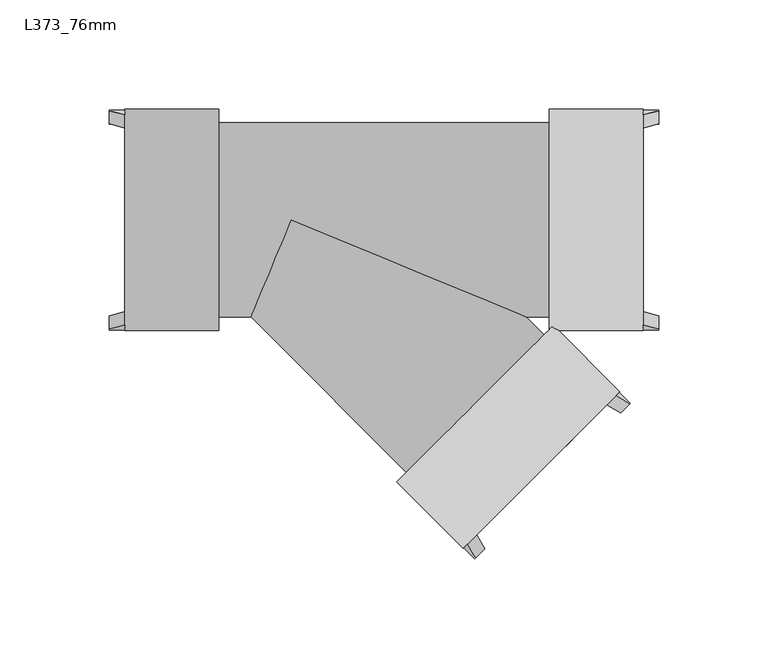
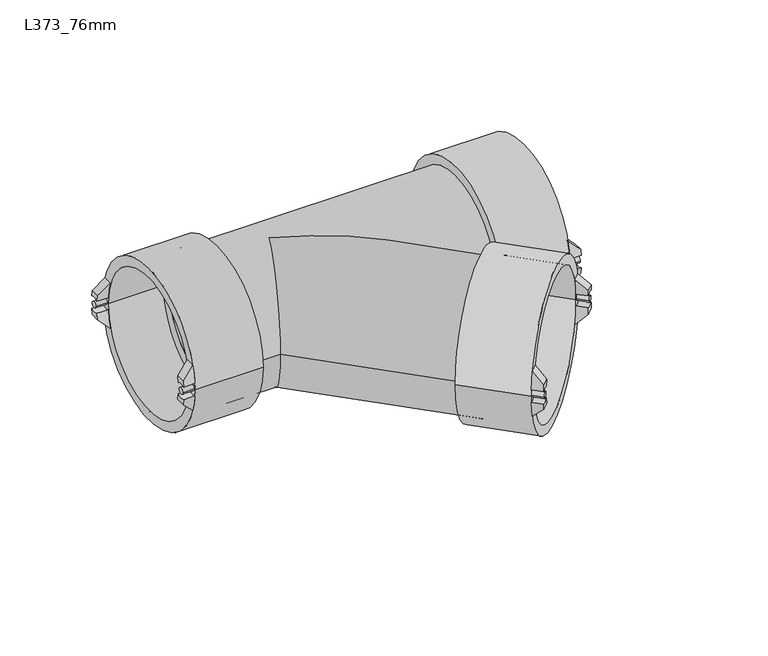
"""IFC4 building model written with IfcOpenShell, lengths in millimetres: pipe fitting geometry, Durapipe_PipeFitting_VulcatheneEnfusion_SingleWye_L37 : L373_76mm."""

from ifc_helpers import new_model, si_unit, point, frame, frame_2d, origin, place, context, project, spatial, polyline, circle_curve, ellipse_curve, trimmed, segment, composite_curve, outline, extrude, source, transform, mapped, element, save
from ifc_brep_helpers import plane_surface, cylinder_surface, revolved_surface, advanced_brep


def l373_76mm_3f97b690(model_context):
    return source(origin(), model_context, "Body", "SolidModel", [
        advanced_brep(
        [(150.9511575, -88.0509345, 5.9517116), (155.0877322, -83.9143599, 6.2013761), (154.7658046, -84.2362874, 9.9669854), (150.5701537, -88.4319384, 9.9669854), (148.5778752, -80.3833006, 17.0269854), (150.067274, -78.8939017, 6.2013761), (145.9306994, -83.0304764, 5.9517116), (144.2179591, -84.7432166, 17.0269854)],
        [
            (0, 1, circle_curve(frame((153.1416511, -85.8604409, 2.0269854), z_axis=(-0.7071067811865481, 0.7071067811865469, 0.0), x_axis=(-0.7071067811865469, -0.7071067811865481, 0.0)), 5.0)),
            (1, 2, circle_curve(frame((119.501046, -119.501046, 2.0269854), z_axis=(0.7071067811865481, -0.7071067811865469, 0.0), x_axis=(-0.7071067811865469, -0.7071067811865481, 0.0)), 50.5)),
            (2, 3),
            (3, 0, circle_curve(frame((119.501046, -119.501046, 2.0269854), z_axis=(-0.7071067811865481, 0.7071067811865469, 0.0), x_axis=(-0.7071067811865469, -0.7071067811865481, 0.0)), 44.65)),
            (4, 5, circle_curve(frame((114.4805879, -114.4805879, 2.0269854), z_axis=(-0.7071067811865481, 0.7071067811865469, 0.0), x_axis=(-0.7071067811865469, -0.7071067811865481, 0.0)), 50.5)),
            (5, 6, circle_curve(frame((148.121193, -80.8399828, 2.0269854), z_axis=(0.7071067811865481, -0.7071067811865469, 0.0), x_axis=(-0.7071067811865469, -0.7071067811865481, 0.0)), 5.0)),
            (6, 7, circle_curve(frame((114.4805879, -114.4805879, 2.0269854), z_axis=(0.7071067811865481, -0.7071067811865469, 0.0), x_axis=(-0.7071067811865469, -0.7071067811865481, 0.0)), 44.65)),
            (7, 4),
            (6, 0),
            (3, 7, ellipse_curve(frame((125.1472837, -125.1472837, 2.0269854), z_axis=(0.4985855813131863, -0.4985855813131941, 0.7091014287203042), x_axis=(-0.5014104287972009, 0.5014104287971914, 0.7051064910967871)), 63.3237682, 44.65)),
            (4, 2, ellipse_curve(frame((125.1472837, -125.1472837, 2.0269854), z_axis=(-0.4985855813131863, 0.4985855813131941, -0.7091014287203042), x_axis=(0.5014104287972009, -0.5014104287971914, -0.7051064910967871)), 71.6203873, 50.5)),
            (1, 5),
        ],
        [
            plane_surface(frame((153.5983333, -85.4037587, 17.0269854), z_axis=(0.7071067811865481, -0.7071067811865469, 0.0), x_axis=(-0.7071067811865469, -0.7071067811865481, 0.0))),
            plane_surface(frame((148.5778752, -80.3833006, 17.0269854), z_axis=(-0.7071067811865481, 0.7071067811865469, 0.0), x_axis=(0.7071067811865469, 0.7071067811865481, 0.0))),
            revolved_surface(polyline([(61.82376815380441, -124.96840371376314, 2.0269854), (125.32616368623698, -188.4707992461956, 2.0269854)]), (114.4805879, -114.4805879, 2.0269854), (-0.7071067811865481, 0.7071067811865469, 0.0)),
            cylinder_surface(frame((114.4805879, -114.4805879, 2.0269854), z_axis=(0.7071067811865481, -0.7071067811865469, 0.0), x_axis=(-0.7071067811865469, -0.7071067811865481, 0.0)), 50.5),
            revolved_surface(polyline([(149.60611724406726, -89.39597485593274, 2.0269854), (144.58565904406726, -84.37551665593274, 2.0269854)]), (148.121193, -80.8399828, 2.0269854), (0.7071067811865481, -0.7071067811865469, 0.0)),
            plane_surface(frame((78.7716954, -150.1894803, 17.0269854), z_axis=(0.4985855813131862, -0.49858558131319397, 0.7091014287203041), x_axis=(0.7071067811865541, 0.7071067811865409, 0.0))),
        ],
        [
            (0, [[1, 2, 3, 4]]),
            (1, [[5, 6, 7, 8]]),
            (2, [[-7, 9, -4, 10]]),
            (3, [[-5, 11, -2, 12]]),
            (4, [[-1, -9, -6, -12]]),
            (5, [[-3, -11, -8, -10]]),
        ],
    ),
        advanced_brep(
        [(155.0877322, -83.9143599, -2.1474052), (150.9511575, -88.0509345, -1.8977407), (150.5701537, -88.4319384, -5.9130146), (154.7658046, -84.2362874, -5.9130146), (150.067274, -78.8939017, -2.1474052), (148.5778752, -80.3833006, -12.9730146), (144.2179591, -84.7432166, -12.9730146), (145.9306994, -83.0304764, -1.8977407)],
        [
            (0, 1, circle_curve(frame((153.1416511, -85.8604409, 2.0269854), z_axis=(-0.7071067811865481, 0.7071067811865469, 0.0), x_axis=(-0.7071067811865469, -0.7071067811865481, 0.0)), 5.0)),
            (1, 2, circle_curve(frame((119.501046, -119.501046, 2.0269854), z_axis=(-0.7071067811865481, 0.7071067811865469, 0.0), x_axis=(-0.7071067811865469, -0.7071067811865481, 0.0)), 44.65)),
            (2, 3),
            (3, 0, circle_curve(frame((119.501046, -119.501046, 2.0269854), z_axis=(0.7071067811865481, -0.7071067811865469, 0.0), x_axis=(-0.7071067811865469, -0.7071067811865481, 0.0)), 50.5)),
            (4, 5, circle_curve(frame((114.4805879, -114.4805879, 2.0269854), z_axis=(-0.7071067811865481, 0.7071067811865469, 0.0), x_axis=(-0.7071067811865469, -0.7071067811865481, 0.0)), 50.5)),
            (5, 6),
            (6, 7, circle_curve(frame((114.4805879, -114.4805879, 2.0269854), z_axis=(0.7071067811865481, -0.7071067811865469, 0.0), x_axis=(-0.7071067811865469, -0.7071067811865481, 0.0)), 44.65)),
            (7, 4, circle_curve(frame((148.121193, -80.8399828, 2.0269854), z_axis=(0.7071067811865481, -0.7071067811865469, 0.0), x_axis=(-0.7071067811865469, -0.7071067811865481, 0.0)), 5.0)),
            (6, 2, ellipse_curve(frame((125.1472837, -125.1472837, 2.0269854), z_axis=(0.49858558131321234, -0.4985855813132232, -0.7091014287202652), x_axis=(-0.5014104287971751, 0.5014104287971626, -0.7051064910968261)), 63.3237682, 44.65)),
            (1, 7),
            (4, 0),
            (3, 5, ellipse_curve(frame((125.1472837, -125.1472837, 2.0269854), z_axis=(-0.49858558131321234, 0.4985855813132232, 0.7091014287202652), x_axis=(0.5014104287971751, -0.5014104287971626, 0.7051064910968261)), 71.6203873, 50.5)),
        ],
        [
            plane_surface(frame((153.5983333, -85.4037587, 17.0269854), z_axis=(0.7071067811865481, -0.7071067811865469, 0.0), x_axis=(-0.7071067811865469, -0.7071067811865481, 0.0))),
            plane_surface(frame((148.5778752, -80.3833006, 17.0269854), z_axis=(-0.7071067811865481, 0.7071067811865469, 0.0), x_axis=(0.7071067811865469, 0.7071067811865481, 0.0))),
            revolved_surface(polyline([(61.82376815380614, -124.96840371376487, 2.0269854), (125.32616368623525, -188.47079924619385, 2.0269854)]), (114.4805879, -114.4805879, 2.0269854), (-0.7071067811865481, 0.7071067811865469, 0.0)),
            cylinder_surface(frame((114.4805879, -114.4805879, 2.0269854), z_axis=(0.7071067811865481, -0.7071067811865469, 0.0), x_axis=(-0.7071067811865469, -0.7071067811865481, 0.0)), 50.5),
            revolved_surface(polyline([(149.60611724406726, -89.39597485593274, 2.0269854), (144.58565904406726, -84.37551665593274, 2.0269854)]), (148.121193, -80.8399828, 2.0269854), (0.7071067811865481, -0.7071067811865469, 0.0)),
            plane_surface(frame((83.7921536, -155.2099385, -5.9130146), z_axis=(0.49858558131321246, -0.49858558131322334, -0.7091014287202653), x_axis=(0.7071067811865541, 0.7071067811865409, 0.0))),
        ],
        [
            (0, [[1, 2, 3, 4]]),
            (1, [[5, 6, 7, 8]]),
            (2, [[-7, 9, -2, 10]]),
            (3, [[-5, 11, -4, 12]]),
            (4, [[-1, -11, -8, -10]]),
            (5, [[-3, -9, -6, -12]]),
        ],
    ),
        advanced_brep(
        [(83.9143599, -155.0877322, 6.2013761), (88.0509345, -150.9511575, 5.9517116), (88.4319384, -150.5701537, 9.9669854), (84.2362874, -154.7658046, 9.9669854), (78.8939017, -150.067274, 6.2013761), (80.3833006, -148.5778752, 17.0269854), (84.7432166, -144.2179591, 17.0269854), (83.0304764, -145.9306994, 5.9517116)],
        [
            (0, 1, circle_curve(frame((85.8604409, -153.1416511, 2.0269854), z_axis=(-0.7071067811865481, 0.7071067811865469, 0.0), x_axis=(-0.7071067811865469, -0.7071067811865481, 0.0)), 5.0)),
            (1, 2, circle_curve(frame((119.501046, -119.501046, 2.0269854), z_axis=(-0.7071067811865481, 0.7071067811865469, 0.0), x_axis=(-0.7071067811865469, -0.7071067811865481, 0.0)), 44.65)),
            (2, 3),
            (3, 0, circle_curve(frame((119.501046, -119.501046, 2.0269854), z_axis=(0.7071067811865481, -0.7071067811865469, 0.0), x_axis=(-0.7071067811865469, -0.7071067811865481, 0.0)), 50.5)),
            (4, 5, circle_curve(frame((114.4805879, -114.4805879, 2.0269854), z_axis=(-0.7071067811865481, 0.7071067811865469, 0.0), x_axis=(-0.7071067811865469, -0.7071067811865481, 0.0)), 50.5)),
            (5, 6),
            (6, 7, circle_curve(frame((114.4805879, -114.4805879, 2.0269854), z_axis=(0.7071067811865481, -0.7071067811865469, 0.0), x_axis=(-0.7071067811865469, -0.7071067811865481, 0.0)), 44.65)),
            (7, 4, circle_curve(frame((80.8399828, -148.121193, 2.0269854), z_axis=(0.7071067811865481, -0.7071067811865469, 0.0), x_axis=(-0.7071067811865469, -0.7071067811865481, 0.0)), 5.0)),
            (6, 2, ellipse_curve(frame((125.1472837, -125.1472837, 2.0269854), z_axis=(0.4985855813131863, -0.4985855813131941, 0.7091014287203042), x_axis=(-0.5014104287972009, 0.5014104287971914, 0.7051064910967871)), 63.3237682, 44.65)),
            (1, 7),
            (4, 0),
            (3, 5, ellipse_curve(frame((125.1472837, -125.1472837, 2.0269854), z_axis=(-0.4985855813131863, 0.4985855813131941, -0.7091014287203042), x_axis=(0.5014104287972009, -0.5014104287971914, -0.7051064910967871)), 71.6203873, 50.5)),
        ],
        [
            plane_surface(frame((153.5983333, -85.4037587, 17.0269854), z_axis=(0.7071067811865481, -0.7071067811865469, 0.0), x_axis=(-0.7071067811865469, -0.7071067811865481, 0.0))),
            plane_surface(frame((148.5778752, -80.3833006, 17.0269854), z_axis=(-0.7071067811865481, 0.7071067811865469, 0.0), x_axis=(0.7071067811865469, 0.7071067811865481, 0.0))),
            revolved_surface(polyline([(61.82376815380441, -124.96840371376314, 2.0269854), (125.32616368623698, -188.4707992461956, 2.0269854)]), (114.4805879, -114.4805879, 2.0269854), (-0.7071067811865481, 0.7071067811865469, 0.0)),
            cylinder_surface(frame((114.4805879, -114.4805879, 2.0269854), z_axis=(0.7071067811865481, -0.7071067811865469, 0.0), x_axis=(-0.7071067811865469, -0.7071067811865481, 0.0)), 50.5),
            revolved_surface(polyline([(82.32490704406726, -156.67718505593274, 2.0269854), (77.30444884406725, -151.65672685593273, 2.0269854)]), (80.8399828, -148.121193, 2.0269854), (0.7071067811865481, -0.7071067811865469, 0.0)),
            plane_surface(frame((78.7716954, -150.1894803, 17.0269854), z_axis=(0.4985855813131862, -0.49858558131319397, 0.7091014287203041), x_axis=(0.7071067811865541, 0.7071067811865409, 0.0))),
        ],
        [
            (0, [[1, 2, 3, 4]]),
            (1, [[5, 6, 7, 8]]),
            (2, [[-7, 9, -2, 10]]),
            (3, [[-5, 11, -4, 12]]),
            (4, [[-1, -11, -8, -10]]),
            (5, [[-3, -9, -6, -12]]),
        ],
    ),
        advanced_brep(
        [(88.0509345, -150.9511575, -1.8977407), (83.9143599, -155.0877322, -2.1474052), (84.2362874, -154.7658046, -5.9130146), (88.4319384, -150.5701537, -5.9130146), (80.3833006, -148.5778752, -12.9730146), (78.8939017, -150.067274, -2.1474052), (83.0304764, -145.9306994, -1.8977407), (84.7432166, -144.2179591, -12.9730146)],
        [
            (0, 1, circle_curve(frame((85.8604409, -153.1416511, 2.0269854), z_axis=(-0.7071067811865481, 0.7071067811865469, 0.0), x_axis=(-0.7071067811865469, -0.7071067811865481, 0.0)), 5.0)),
            (1, 2, circle_curve(frame((119.501046, -119.501046, 2.0269854), z_axis=(0.7071067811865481, -0.7071067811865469, 0.0), x_axis=(-0.7071067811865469, -0.7071067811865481, 0.0)), 50.5)),
            (2, 3),
            (3, 0, circle_curve(frame((119.501046, -119.501046, 2.0269854), z_axis=(-0.7071067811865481, 0.7071067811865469, 0.0), x_axis=(-0.7071067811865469, -0.7071067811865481, 0.0)), 44.65)),
            (4, 5, circle_curve(frame((114.4805879, -114.4805879, 2.0269854), z_axis=(-0.7071067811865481, 0.7071067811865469, 0.0), x_axis=(-0.7071067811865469, -0.7071067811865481, 0.0)), 50.5)),
            (5, 6, circle_curve(frame((80.8399828, -148.121193, 2.0269854), z_axis=(0.7071067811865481, -0.7071067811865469, 0.0), x_axis=(-0.7071067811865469, -0.7071067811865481, 0.0)), 5.0)),
            (6, 7, circle_curve(frame((114.4805879, -114.4805879, 2.0269854), z_axis=(0.7071067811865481, -0.7071067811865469, 0.0), x_axis=(-0.7071067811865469, -0.7071067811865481, 0.0)), 44.65)),
            (7, 4),
            (6, 0),
            (3, 7, ellipse_curve(frame((125.1472837, -125.1472837, 2.0269854), z_axis=(0.49858558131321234, -0.4985855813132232, -0.7091014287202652), x_axis=(-0.5014104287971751, 0.5014104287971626, -0.7051064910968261)), 63.3237682, 44.65)),
            (4, 2, ellipse_curve(frame((125.1472837, -125.1472837, 2.0269854), z_axis=(-0.49858558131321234, 0.4985855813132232, 0.7091014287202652), x_axis=(0.5014104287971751, -0.5014104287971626, 0.7051064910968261)), 71.6203873, 50.5)),
            (1, 5),
        ],
        [
            plane_surface(frame((153.5983333, -85.4037587, 17.0269854), z_axis=(0.7071067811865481, -0.7071067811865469, 0.0), x_axis=(-0.7071067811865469, -0.7071067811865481, 0.0))),
            plane_surface(frame((148.5778752, -80.3833006, 17.0269854), z_axis=(-0.7071067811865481, 0.7071067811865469, 0.0), x_axis=(0.7071067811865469, 0.7071067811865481, 0.0))),
            revolved_surface(polyline([(61.82376815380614, -124.96840371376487, 2.0269854), (125.32616368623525, -188.47079924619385, 2.0269854)]), (114.4805879, -114.4805879, 2.0269854), (-0.7071067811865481, 0.7071067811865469, 0.0)),
            cylinder_surface(frame((114.4805879, -114.4805879, 2.0269854), z_axis=(0.7071067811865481, -0.7071067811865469, 0.0), x_axis=(-0.7071067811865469, -0.7071067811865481, 0.0)), 50.5),
            revolved_surface(polyline([(82.32490704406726, -156.67718505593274, 2.0269854), (77.30444884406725, -151.65672685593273, 2.0269854)]), (80.8399828, -148.121193, 2.0269854), (0.7071067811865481, -0.7071067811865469, 0.0)),
            plane_surface(frame((83.7921536, -155.2099385, -5.9130146), z_axis=(0.49858558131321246, -0.49858558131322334, -0.7091014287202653), x_axis=(0.7071067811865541, 0.7071067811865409, 0.0))),
        ],
        [
            (0, [[1, 2, 3, 4]]),
            (1, [[5, 6, 7, 8]]),
            (2, [[-7, 9, -4, 10]]),
            (3, [[-5, 11, -2, 12]]),
            (4, [[-1, -9, -6, -12]]),
            (5, [[-3, -11, -8, -10]]),
        ],
    ),
        extrude(outline(composite_curve([segment(trimmed(circle_curve(frame_2d((0.0, -2.0)), 2.0), [point((0.0, -4.0))], [point((0.0, 0.0))], False, "CARTESIAN"), True, "CONTINUOUS"), segment(trimmed(circle_curve(frame_2d((0.0, -2.0)), 2.0), [point((0.0, 0.0))], [point((0.0, -4.0))], False, "CARTESIAN"), True, "CONTINUOUS")], self_intersect=False)), frame((151.7274376, -87.2746545, 2.0269854), z_axis=(-0.7071067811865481, 0.7071067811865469, 0.0), x_axis=(0.0, 0.0, -1.0)), (0.0, 0.0, 1.0), 7.1),
        extrude(outline(composite_curve([segment(trimmed(circle_curve(frame_2d((0.0, 93.15)), 2.0), [point((0.0, 91.15))], [point((0.0, 95.15))], False, "CARTESIAN"), True, "CONTINUOUS"), segment(trimmed(circle_curve(frame_2d((0.0, 93.15)), 2.0), [point((0.0, 95.15))], [point((0.0, 91.15))], False, "CARTESIAN"), True, "CONTINUOUS")], self_intersect=False)), frame((151.7274376, -87.2746545, 2.0269854), z_axis=(-0.7071067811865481, 0.7071067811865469, 0.0), x_axis=(0.0, 0.0, -1.0)), (0.0, 0.0, 1.0), 7.1),
        advanced_brep(
        [(116.6019082, -62.8617928, 2.0269854), (62.8617928, -116.6019082, 2.0269854), (58.2655988, -121.1981023, 2.0269854), (121.1981023, -58.2655988, 2.0269854), (110.945054, -57.2049386, 2.0269854), (57.2049386, -110.945054, 2.0269854), (119.8899548, -48.2600378, 2.0269854), (48.2600378, -119.8899548, 2.0269854), (150.2955463, -78.6656294, 2.0269854), (78.6656294, -150.2955463, 2.0269854), (145.9468396, -83.0143361, 2.0269854), (83.0143361, -145.9468396, 2.0269854)],
        [
            (0, 1, circle_curve(frame((89.7318505, -89.7318505, 2.0269854), z_axis=(-0.7071067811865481, 0.7071067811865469, 0.0), x_axis=(-0.7071067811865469, -0.7071067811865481, 0.0)), 38.0)),
            (1, 2),
            (2, 3, circle_curve(frame((89.7318505, -89.7318505, 2.0269854), z_axis=(0.7071067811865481, -0.7071067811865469, 0.0), x_axis=(-0.7071067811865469, -0.7071067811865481, 0.0)), 44.5)),
            (3, 0),
            (1, 0, circle_curve(frame((89.7318505, -89.7318505, 2.0269854), z_axis=(-0.7071067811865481, 0.7071067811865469, 0.0), x_axis=(-0.7071067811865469, -0.7071067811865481, 0.0)), 38.0)),
            (3, 2, circle_curve(frame((89.7318505, -89.7318505, 2.0269854), z_axis=(0.7071067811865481, -0.7071067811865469, 0.0), x_axis=(-0.7071067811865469, -0.7071067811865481, 0.0)), 44.5)),
            (4, 5, circle_curve(frame((84.0749963, -84.0749963, 2.0269854), z_axis=(-0.7071067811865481, 0.7071067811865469, 0.0), x_axis=(-0.7071067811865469, -0.7071067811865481, 0.0)), 38.0)),
            (5, 1),
            (0, 4),
            (5, 4, circle_curve(frame((84.0749963, -84.0749963, 2.0269854), z_axis=(-0.7071067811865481, 0.7071067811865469, 0.0), x_axis=(-0.7071067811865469, -0.7071067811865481, 0.0)), 38.0)),
            (6, 7, circle_curve(frame((84.0749963, -84.0749963, 2.0269854), z_axis=(-0.7071067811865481, 0.7071067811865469, 0.0), x_axis=(-0.7071067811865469, -0.7071067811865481, 0.0)), 50.65)),
            (7, 5),
            (4, 6),
            (7, 6, circle_curve(frame((84.0749963, -84.0749963, 2.0269854), z_axis=(-0.7071067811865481, 0.7071067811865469, 0.0), x_axis=(-0.7071067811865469, -0.7071067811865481, 0.0)), 50.65)),
            (8, 9, circle_curve(frame((114.4805879, -114.4805879, 2.0269854), z_axis=(-0.7071067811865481, 0.7071067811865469, 0.0), x_axis=(-0.7071067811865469, -0.7071067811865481, 0.0)), 50.65)),
            (9, 7),
            (6, 8),
            (9, 8, circle_curve(frame((114.4805879, -114.4805879, 2.0269854), z_axis=(-0.7071067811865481, 0.7071067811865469, 0.0), x_axis=(-0.7071067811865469, -0.7071067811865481, 0.0)), 50.65)),
            (10, 11, circle_curve(frame((114.4805879, -114.4805879, 2.0269854), z_axis=(-0.7071067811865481, 0.7071067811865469, 0.0), x_axis=(-0.7071067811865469, -0.7071067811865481, 0.0)), 44.5)),
            (11, 9),
            (8, 10),
            (11, 10, circle_curve(frame((114.4805879, -114.4805879, 2.0269854), z_axis=(-0.7071067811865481, 0.7071067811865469, 0.0), x_axis=(-0.7071067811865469, -0.7071067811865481, 0.0)), 44.5)),
            (2, 11),
            (10, 3),
        ],
        [
            plane_surface(frame((89.7318505, -89.7318505, 2.0269854), z_axis=(0.7071067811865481, -0.7071067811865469, 0.0), x_axis=(-0.7071067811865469, -0.7071067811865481, 0.0))),
            revolved_surface(polyline([(62.861792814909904, -116.60190818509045, 2.0269854), (57.204938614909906, -110.94505398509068, 2.0269854)]), (1892.1347491, -1892.1347491, 2.0269854), (0.7071067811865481, -0.7071067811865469, 0.0)),
            plane_surface(frame((84.0749963, -84.0749963, 2.0269854), z_axis=(-0.7071067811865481, 0.7071067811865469, 0.0), x_axis=(-0.7071067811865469, -0.7071067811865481, 0.0))),
            cylinder_surface(frame((1892.1347491, -1892.1347491, 2.0269854), z_axis=(0.7071067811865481, -0.7071067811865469, 0.0), x_axis=(-0.7071067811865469, -0.7071067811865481, 0.0)), 50.65),
            plane_surface(frame((114.4805879, -114.4805879, 2.0269854), z_axis=(0.7071067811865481, -0.7071067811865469, 0.0), x_axis=(-0.7071067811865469, -0.7071067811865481, 0.0))),
            revolved_surface(polyline([(83.01433613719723, -145.9468396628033, 2.0269854), (58.26559873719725, -121.1981022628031, 2.0269854)]), (1892.1347491, -1892.1347491, 2.0269854), (0.7071067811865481, -0.7071067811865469, 0.0)),
        ],
        [
            (0, [[1, 2, 3, 4]]),
            (0, [[5, -4, 6, -2]]),
            (1, [[7, 8, -1, 9]]),
            (1, [[10, -9, -5, -8]]),
            (2, [[11, 12, -7, 13]]),
            (2, [[14, -13, -10, -12]]),
            (3, [[15, 16, -11, 17]]),
            (3, [[18, -17, -14, -16]]),
            (4, [[19, 20, -15, 21]]),
            (4, [[22, -21, -18, -20]]),
            (5, [[-3, 23, -19, 24]]),
            (5, [[-6, -24, -22, -23]]),
        ],
    ),
        advanced_brep(
        [(-83.3, -44.4771742, 3.9247261), (-83.3, -50.3271742, 4.1743906), (-83.3, -49.8718999, 7.94), (-83.3, -43.9383534, 7.94), (-76.2, -48.2208461, 15.0), (-76.2, -50.3271742, 4.1743906), (-76.2, -44.4771742, 3.9247261), (-76.2, -42.0549938, 15.0)],
        [
            (0, 1, circle_curve(frame((-83.3, -47.575, 0.0), z_axis=(1.0, 0.0, 0.0), x_axis=(0.0, 1.0, 0.0)), 5.0)),
            (1, 2, circle_curve(frame((-83.3, 0.0, 0.0), z_axis=(-1.0, 0.0, 0.0), x_axis=(0.0, 1.0, 0.0)), 50.5)),
            (2, 3),
            (3, 0, circle_curve(frame((-83.3, 0.0, 0.0), z_axis=(1.0, 0.0, 0.0), x_axis=(0.0, 1.0, 0.0)), 44.65)),
            (4, 5, circle_curve(frame((-76.2, 0.0, 0.0), z_axis=(1.0, 0.0, 0.0), x_axis=(0.0, 1.0, 0.0)), 50.5)),
            (5, 6, circle_curve(frame((-76.2, -47.575, 0.0), z_axis=(-1.0, 0.0, 0.0), x_axis=(0.0, 1.0, 0.0)), 5.0)),
            (6, 7, circle_curve(frame((-76.2, 0.0, 0.0), z_axis=(-1.0, 0.0, 0.0), x_axis=(0.0, 1.0, 0.0)), 44.65)),
            (7, 4),
            (6, 0),
            (3, 7, ellipse_curve(frame((-91.2849858, 0.0, 0.0), z_axis=(-0.705106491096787, 0.0, 0.7091014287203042), x_axis=(0.7091014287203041, 0.0, 0.705106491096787)), 63.3237682, 44.65)),
            (4, 2, ellipse_curve(frame((-91.2849858, 0.0, 0.0), z_axis=(0.705106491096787, 0.0, -0.7091014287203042), x_axis=(-0.7091014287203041, 0.0, -0.705106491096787)), 71.6203873, 50.5)),
            (1, 5),
        ],
        [
            plane_surface(frame((-83.3, -48.2208461, 15.0), z_axis=(-1.0, 0.0, 0.0), x_axis=(0.0, 1.0, 0.0))),
            plane_surface(frame((-76.2, -48.2208461, 15.0), z_axis=(1.0, 0.0, 0.0), x_axis=(0.0, -1.0, 0.0))),
            revolved_surface(polyline([(-46.38201129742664, 44.65, 0.0), (-136.18796030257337, 44.65, 0.0)]), (-76.2, 0.0, 0.0), (1.0, 0.0, 0.0)),
            cylinder_surface(frame((-76.2, 0.0, 0.0), z_axis=(-1.0, 0.0, 0.0), x_axis=(0.0, 1.0, 0.0)), 50.5),
            revolved_surface(polyline([(-83.3, -42.575, 0.0), (-76.2, -42.575, 0.0)]), (-76.2, -47.575, 0.0), (-1.0, 0.0, 0.0)),
            plane_surface(frame((-76.2, 50.5, 15.0), z_axis=(-0.705106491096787, 0.0, 0.7091014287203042), x_axis=(0.0, -1.0, 0.0))),
        ],
        [
            (0, [[1, 2, 3, 4]]),
            (1, [[5, 6, 7, 8]]),
            (2, [[-7, 9, -4, 10]]),
            (3, [[-5, 11, -2, 12]]),
            (4, [[-1, -9, -6, -12]]),
            (5, [[-3, -11, -8, -10]]),
        ],
    ),
        advanced_brep(
        [(-83.3, -50.3271742, -4.1743906), (-83.3, -44.4771742, -3.9247261), (-83.3, -43.9383534, -7.94), (-83.3, -49.8718999, -7.94), (-76.2, -50.3271742, -4.1743906), (-76.2, -48.2208461, -15.0), (-76.2, -42.0549938, -15.0), (-76.2, -44.4771742, -3.9247261)],
        [
            (0, 1, circle_curve(frame((-83.3, -47.575, 0.0), z_axis=(1.0, 0.0, 0.0), x_axis=(0.0, 1.0, 0.0)), 5.0)),
            (1, 2, circle_curve(frame((-83.3, 0.0, 0.0), z_axis=(1.0, 0.0, 0.0), x_axis=(0.0, 1.0, 0.0)), 44.65)),
            (2, 3),
            (3, 0, circle_curve(frame((-83.3, 0.0, 0.0), z_axis=(-1.0, 0.0, 0.0), x_axis=(0.0, 1.0, 0.0)), 50.5)),
            (4, 5, circle_curve(frame((-76.2, 0.0, 0.0), z_axis=(1.0, 0.0, 0.0), x_axis=(0.0, 1.0, 0.0)), 50.5)),
            (5, 6),
            (6, 7, circle_curve(frame((-76.2, 0.0, 0.0), z_axis=(-1.0, 0.0, 0.0), x_axis=(0.0, 1.0, 0.0)), 44.65)),
            (7, 4, circle_curve(frame((-76.2, -47.575, 0.0), z_axis=(-1.0, 0.0, 0.0), x_axis=(0.0, 1.0, 0.0)), 5.0)),
            (6, 2, ellipse_curve(frame((-91.2849858, 0.0, 0.0), z_axis=(-0.7051064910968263, 0.0, -0.7091014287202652), x_axis=(0.7091014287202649, 0.0, -0.7051064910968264)), 63.3237682, 44.65)),
            (1, 7),
            (4, 0),
            (3, 5, ellipse_curve(frame((-91.2849858, 0.0, 0.0), z_axis=(0.7051064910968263, 0.0, 0.7091014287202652), x_axis=(-0.7091014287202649, 0.0, 0.7051064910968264)), 71.6203873, 50.5)),
        ],
        [
            plane_surface(frame((-83.3, -48.2208461, 15.0), z_axis=(-1.0, 0.0, 0.0), x_axis=(0.0, 1.0, 0.0))),
            plane_surface(frame((-76.2, -48.2208461, 15.0), z_axis=(1.0, 0.0, 0.0), x_axis=(0.0, -1.0, 0.0))),
            revolved_surface(polyline([(-46.382011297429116, 44.65, 0.0), (-136.1879603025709, 44.65, 0.0)]), (-76.2, 0.0, 0.0), (1.0, 0.0, 0.0)),
            cylinder_surface(frame((-76.2, 0.0, 0.0), z_axis=(-1.0, 0.0, 0.0), x_axis=(0.0, 1.0, 0.0)), 50.5),
            revolved_surface(polyline([(-83.3, -42.575, 0.0), (-76.2, -42.575, 0.0)]), (-76.2, -47.575, 0.0), (-1.0, 0.0, 0.0)),
            plane_surface(frame((-83.3, 50.5, -7.94), z_axis=(-0.7051064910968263, 0.0, -0.7091014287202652), x_axis=(0.0, -1.0, 0.0))),
        ],
        [
            (0, [[1, 2, 3, 4]]),
            (1, [[5, 6, 7, 8]]),
            (2, [[-7, 9, -2, 10]]),
            (3, [[-5, 11, -4, 12]]),
            (4, [[-1, -11, -8, -10]]),
            (5, [[-3, -9, -6, -12]]),
        ],
    ),
        advanced_brep(
        [(-83.3, 50.3271742, 4.1743906), (-83.3, 44.4771742, 3.9247261), (-83.3, 43.9383534, 7.94), (-83.3, 49.8718999, 7.94), (-76.2, 50.3271742, 4.1743906), (-76.2, 48.2208461, 15.0), (-76.2, 42.0549938, 15.0), (-76.2, 44.4771742, 3.9247261)],
        [
            (0, 1, circle_curve(frame((-83.3, 47.575, 0.0), z_axis=(1.0, 0.0, 0.0), x_axis=(0.0, 1.0, 0.0)), 5.0)),
            (1, 2, circle_curve(frame((-83.3, 0.0, 0.0), z_axis=(1.0, 0.0, 0.0), x_axis=(0.0, 1.0, 0.0)), 44.65)),
            (2, 3),
            (3, 0, circle_curve(frame((-83.3, 0.0, 0.0), z_axis=(-1.0, 0.0, 0.0), x_axis=(0.0, 1.0, 0.0)), 50.5)),
            (4, 5, circle_curve(frame((-76.2, 0.0, 0.0), z_axis=(1.0, 0.0, 0.0), x_axis=(0.0, 1.0, 0.0)), 50.5)),
            (5, 6),
            (6, 7, circle_curve(frame((-76.2, 0.0, 0.0), z_axis=(-1.0, 0.0, 0.0), x_axis=(0.0, 1.0, 0.0)), 44.65)),
            (7, 4, circle_curve(frame((-76.2, 47.575, 0.0), z_axis=(-1.0, 0.0, 0.0), x_axis=(0.0, 1.0, 0.0)), 5.0)),
            (6, 2, ellipse_curve(frame((-91.2849858, 0.0, 0.0), z_axis=(-0.705106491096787, 0.0, 0.7091014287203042), x_axis=(0.7091014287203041, 0.0, 0.705106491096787)), 63.3237682, 44.65)),
            (1, 7),
            (4, 0),
            (3, 5, ellipse_curve(frame((-91.2849858, 0.0, 0.0), z_axis=(0.705106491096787, 0.0, -0.7091014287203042), x_axis=(-0.7091014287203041, 0.0, -0.705106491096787)), 71.6203873, 50.5)),
        ],
        [
            plane_surface(frame((-83.3, -48.2208461, 15.0), z_axis=(-1.0, 0.0, 0.0), x_axis=(0.0, 1.0, 0.0))),
            plane_surface(frame((-76.2, -48.2208461, 15.0), z_axis=(1.0, 0.0, 0.0), x_axis=(0.0, -1.0, 0.0))),
            revolved_surface(polyline([(-46.38201129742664, 44.65, 0.0), (-136.18796030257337, 44.65, 0.0)]), (-76.2, 0.0, 0.0), (1.0, 0.0, 0.0)),
            cylinder_surface(frame((-76.2, 0.0, 0.0), z_axis=(-1.0, 0.0, 0.0), x_axis=(0.0, 1.0, 0.0)), 50.5),
            revolved_surface(polyline([(-83.3, 52.575, 0.0), (-76.2, 52.575, 0.0)]), (-76.2, 47.575, 0.0), (-1.0, 0.0, 0.0)),
            plane_surface(frame((-76.2, 50.5, 15.0), z_axis=(-0.705106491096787, 0.0, 0.7091014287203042), x_axis=(0.0, -1.0, 0.0))),
        ],
        [
            (0, [[1, 2, 3, 4]]),
            (1, [[5, 6, 7, 8]]),
            (2, [[-7, 9, -2, 10]]),
            (3, [[-5, 11, -4, 12]]),
            (4, [[-1, -11, -8, -10]]),
            (5, [[-3, -9, -6, -12]]),
        ],
    ),
        advanced_brep(
        [(-83.3, 44.4771742, -3.9247261), (-83.3, 50.3271742, -4.1743906), (-83.3, 49.8718999, -7.94), (-83.3, 43.9383534, -7.94), (-76.2, 48.2208461, -15.0), (-76.2, 50.3271742, -4.1743906), (-76.2, 44.4771742, -3.9247261), (-76.2, 42.0549938, -15.0)],
        [
            (0, 1, circle_curve(frame((-83.3, 47.575, 0.0), z_axis=(1.0, 0.0, 0.0), x_axis=(0.0, 1.0, 0.0)), 5.0)),
            (1, 2, circle_curve(frame((-83.3, 0.0, 0.0), z_axis=(-1.0, 0.0, 0.0), x_axis=(0.0, 1.0, 0.0)), 50.5)),
            (2, 3),
            (3, 0, circle_curve(frame((-83.3, 0.0, 0.0), z_axis=(1.0, 0.0, 0.0), x_axis=(0.0, 1.0, 0.0)), 44.65)),
            (4, 5, circle_curve(frame((-76.2, 0.0, 0.0), z_axis=(1.0, 0.0, 0.0), x_axis=(0.0, 1.0, 0.0)), 50.5)),
            (5, 6, circle_curve(frame((-76.2, 47.575, 0.0), z_axis=(-1.0, 0.0, 0.0), x_axis=(0.0, 1.0, 0.0)), 5.0)),
            (6, 7, circle_curve(frame((-76.2, 0.0, 0.0), z_axis=(-1.0, 0.0, 0.0), x_axis=(0.0, 1.0, 0.0)), 44.65)),
            (7, 4),
            (6, 0),
            (3, 7, ellipse_curve(frame((-91.2849858, 0.0, 0.0), z_axis=(-0.7051064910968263, 0.0, -0.7091014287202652), x_axis=(0.7091014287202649, 0.0, -0.7051064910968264)), 63.3237682, 44.65)),
            (4, 2, ellipse_curve(frame((-91.2849858, 0.0, 0.0), z_axis=(0.7051064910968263, 0.0, 0.7091014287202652), x_axis=(-0.7091014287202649, 0.0, 0.7051064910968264)), 71.6203873, 50.5)),
            (1, 5),
        ],
        [
            plane_surface(frame((-83.3, -48.2208461, 15.0), z_axis=(-1.0, 0.0, 0.0), x_axis=(0.0, 1.0, 0.0))),
            plane_surface(frame((-76.2, -48.2208461, 15.0), z_axis=(1.0, 0.0, 0.0), x_axis=(0.0, -1.0, 0.0))),
            revolved_surface(polyline([(-46.382011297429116, 44.65, 0.0), (-136.1879603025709, 44.65, 0.0)]), (-76.2, 0.0, 0.0), (1.0, 0.0, 0.0)),
            cylinder_surface(frame((-76.2, 0.0, 0.0), z_axis=(-1.0, 0.0, 0.0), x_axis=(0.0, 1.0, 0.0)), 50.5),
            revolved_surface(polyline([(-83.3, 52.575, 0.0), (-76.2, 52.575, 0.0)]), (-76.2, 47.575, 0.0), (-1.0, 0.0, 0.0)),
            plane_surface(frame((-83.3, 50.5, -7.94), z_axis=(-0.7051064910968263, 0.0, -0.7091014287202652), x_axis=(0.0, -1.0, 0.0))),
        ],
        [
            (0, [[1, 2, 3, 4]]),
            (1, [[5, 6, 7, 8]]),
            (2, [[-7, 9, -4, 10]]),
            (3, [[-5, 11, -2, 12]]),
            (4, [[-1, -9, -6, -12]]),
            (5, [[-3, -11, -8, -10]]),
        ],
    ),
        extrude(outline(composite_curve([segment(trimmed(circle_curve(frame_2d((-47.575, 0.0)), 2.0), [point((-49.575, 0.0))], [point((-45.575, 0.0))], False, "CARTESIAN"), True, "CONTINUOUS"), segment(trimmed(circle_curve(frame_2d((-47.575, 0.0)), 2.0), [point((-45.575, 0.0))], [point((-49.575, 0.0))], False, "CARTESIAN"), True, "CONTINUOUS")], self_intersect=False)), frame((-83.3, 0.0, 0.0), z_axis=(1.0, 0.0, 0.0), x_axis=(0.0, 1.0, 0.0)), (0.0, 0.0, 1.0), 7.1),
        extrude(outline(composite_curve([segment(trimmed(circle_curve(frame_2d((47.575, 0.0)), 2.0), [point((45.575, 0.0))], [point((49.575, 0.0))], False, "CARTESIAN"), True, "CONTINUOUS"), segment(trimmed(circle_curve(frame_2d((47.575, 0.0)), 2.0), [point((49.575, 0.0))], [point((45.575, 0.0))], False, "CARTESIAN"), True, "CONTINUOUS")], self_intersect=False)), frame((-83.3, 0.0, 0.0), z_axis=(1.0, 0.0, 0.0), x_axis=(0.0, 1.0, 0.0)), (0.0, 0.0, 1.0), 7.1),
        advanced_brep(
        [(-41.2, -38.0, 0.0), (-41.2, 38.0, 0.0), (-41.2, 44.5, 0.0), (-41.2, -44.5, 0.0), (-33.2, -38.0, 0.0), (-33.2, 38.0, 0.0), (-33.2, -50.65, 0.0), (-33.2, 50.65, 0.0), (-76.2, -50.65, 0.0), (-76.2, 50.65, 0.0), (-76.2, -44.5, 0.0), (-76.2, 44.5, 0.0)],
        [
            (0, 1, circle_curve(frame((-41.2, 0.0, 0.0), z_axis=(1.0, 0.0, 0.0), x_axis=(0.0, 1.0, 0.0)), 38.0)),
            (1, 2),
            (2, 3, circle_curve(frame((-41.2, 0.0, 0.0), z_axis=(-1.0, 0.0, 0.0), x_axis=(0.0, 1.0, 0.0)), 44.5)),
            (3, 0),
            (1, 0, circle_curve(frame((-41.2, 0.0, 0.0), z_axis=(1.0, 0.0, 0.0), x_axis=(0.0, 1.0, 0.0)), 38.0)),
            (3, 2, circle_curve(frame((-41.2, 0.0, 0.0), z_axis=(-1.0, 0.0, 0.0), x_axis=(0.0, 1.0, 0.0)), 44.5)),
            (4, 5, circle_curve(frame((-33.2, 0.0, 0.0), z_axis=(1.0, 0.0, 0.0), x_axis=(0.0, 1.0, 0.0)), 38.0)),
            (5, 1),
            (0, 4),
            (5, 4, circle_curve(frame((-33.2, 0.0, 0.0), z_axis=(1.0, 0.0, 0.0), x_axis=(0.0, 1.0, 0.0)), 38.0)),
            (6, 7, circle_curve(frame((-33.2, 0.0, 0.0), z_axis=(1.0, 0.0, 0.0), x_axis=(0.0, 1.0, 0.0)), 50.65)),
            (7, 5),
            (4, 6),
            (7, 6, circle_curve(frame((-33.2, 0.0, 0.0), z_axis=(1.0, 0.0, 0.0), x_axis=(0.0, 1.0, 0.0)), 50.65)),
            (8, 9, circle_curve(frame((-76.2, 0.0, 0.0), z_axis=(1.0, 0.0, 0.0), x_axis=(0.0, 1.0, 0.0)), 50.65)),
            (9, 7),
            (6, 8),
            (9, 8, circle_curve(frame((-76.2, 0.0, 0.0), z_axis=(1.0, 0.0, 0.0), x_axis=(0.0, 1.0, 0.0)), 50.65)),
            (10, 11, circle_curve(frame((-76.2, 0.0, 0.0), z_axis=(1.0, 0.0, 0.0), x_axis=(0.0, 1.0, 0.0)), 44.5)),
            (11, 9),
            (8, 10),
            (11, 10, circle_curve(frame((-76.2, 0.0, 0.0), z_axis=(1.0, 0.0, 0.0), x_axis=(0.0, 1.0, 0.0)), 44.5)),
            (2, 11),
            (10, 3),
        ],
        [
            plane_surface(frame((-41.2, 0.0, 0.0), z_axis=(-1.0, 0.0, 0.0), x_axis=(0.0, 1.0, 0.0))),
            revolved_surface(polyline([(-41.19999999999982, 38.0, 0.0), (-33.19999999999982, 38.0, 0.0)]), (-2590.1826241, 0.0, 0.0), (-1.0, 0.0, 0.0)),
            plane_surface(frame((-33.2, 0.0, 0.0), z_axis=(1.0, 0.0, 0.0), x_axis=(0.0, 1.0, 0.0))),
            cylinder_surface(frame((-2590.1826241, 0.0, 0.0), z_axis=(-1.0, 0.0, 0.0), x_axis=(0.0, 1.0, 0.0)), 50.65),
            plane_surface(frame((-76.2, 0.0, 0.0), z_axis=(-1.0, 0.0, 0.0), x_axis=(0.0, 1.0, 0.0))),
            revolved_surface(polyline([(-76.19999999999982, 44.5, 0.0), (-41.19999999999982, 44.5, 0.0)]), (-2590.1826241, 0.0, 0.0), (-1.0, 0.0, 0.0)),
        ],
        [
            (0, [[1, 2, 3, 4]]),
            (0, [[5, -4, 6, -2]]),
            (1, [[7, 8, -1, 9]]),
            (1, [[10, -9, -5, -8]]),
            (2, [[11, 12, -7, 13]]),
            (2, [[14, -13, -10, -12]]),
            (3, [[15, 16, -11, 17]]),
            (3, [[18, -17, -14, -16]]),
            (4, [[19, 20, -15, 21]]),
            (4, [[22, -21, -18, -20]]),
            (5, [[-3, 23, -19, 24]]),
            (5, [[-6, -24, -22, -23]]),
        ],
    ),
        advanced_brep(
        [(168.0, -44.4771742, -3.9247261), (168.0, -50.3271742, -4.1743906), (168.0, -49.8718999, -7.94), (168.0, -43.9383534, -7.94), (160.9, -48.2208461, -15.0), (160.9, -50.3271742, -4.1743906), (160.9, -44.4771742, -3.9247261), (160.9, -42.0549938, -15.0)],
        [
            (0, 1, circle_curve(frame((168.0, -47.575, 0.0), z_axis=(-1.0, 0.0, 0.0), x_axis=(0.0, 1.0, 0.0)), 5.0)),
            (1, 2, circle_curve(frame((168.0, 0.0, 0.0), z_axis=(1.0, 0.0, 0.0), x_axis=(0.0, 1.0, 0.0)), 50.5)),
            (2, 3),
            (3, 0, circle_curve(frame((168.0, 0.0, 0.0), z_axis=(-1.0, 0.0, 0.0), x_axis=(0.0, 1.0, 0.0)), 44.65)),
            (4, 5, circle_curve(frame((160.9, 0.0, 0.0), z_axis=(-1.0, 0.0, 0.0), x_axis=(0.0, 1.0, 0.0)), 50.5)),
            (5, 6, circle_curve(frame((160.9, -47.575, 0.0), z_axis=(1.0, 0.0, 0.0), x_axis=(0.0, 1.0, 0.0)), 5.0)),
            (6, 7, circle_curve(frame((160.9, 0.0, 0.0), z_axis=(1.0, 0.0, 0.0), x_axis=(0.0, 1.0, 0.0)), 44.65)),
            (7, 4),
            (6, 0),
            (3, 7, ellipse_curve(frame((175.9849858, 0.0, 0.0), z_axis=(0.705106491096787, 0.0, -0.7091014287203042), x_axis=(-0.7091014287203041, 0.0, -0.705106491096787)), 63.3237682, 44.65)),
            (4, 2, ellipse_curve(frame((175.9849858, 0.0, 0.0), z_axis=(-0.705106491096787, 0.0, 0.7091014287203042), x_axis=(0.7091014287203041, 0.0, 0.705106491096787)), 71.6203873, 50.5)),
            (1, 5),
        ],
        [
            plane_surface(frame((168.0, -48.2208461, -15.0), z_axis=(1.0, 0.0, 0.0), x_axis=(0.0, 1.0, 0.0))),
            plane_surface(frame((160.9, -48.2208461, -15.0), z_axis=(-1.0, 0.0, 0.0), x_axis=(0.0, -1.0, 0.0))),
            revolved_surface(polyline([(131.08201129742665, 44.65, 0.0), (220.88796030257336, 44.65, 0.0)]), (160.9, 0.0, 0.0), (-1.0, 0.0, 0.0)),
            cylinder_surface(frame((160.9, 0.0, 0.0), z_axis=(1.0, 0.0, 0.0), x_axis=(0.0, 1.0, 0.0)), 50.5),
            revolved_surface(polyline([(168.0, -42.575, 0.0), (160.9, -42.575, 0.0)]), (160.9, -47.575, 0.0), (1.0, 0.0, 0.0)),
            plane_surface(frame((160.9, 50.5, -15.0), z_axis=(0.705106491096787, 0.0, -0.7091014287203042), x_axis=(0.0, -1.0, 0.0))),
        ],
        [
            (0, [[1, 2, 3, 4]]),
            (1, [[5, 6, 7, 8]]),
            (2, [[-7, 9, -4, 10]]),
            (3, [[-5, 11, -2, 12]]),
            (4, [[-1, -9, -6, -12]]),
            (5, [[-3, -11, -8, -10]]),
        ],
    ),
        advanced_brep(
        [(168.0, -50.3271742, 4.1743906), (168.0, -44.4771742, 3.9247261), (168.0, -43.9383534, 7.94), (168.0, -49.8718999, 7.94), (160.9, -50.3271742, 4.1743906), (160.9, -48.2208461, 15.0), (160.9, -42.0549938, 15.0), (160.9, -44.4771742, 3.9247261)],
        [
            (0, 1, circle_curve(frame((168.0, -47.575, 0.0), z_axis=(-1.0, 0.0, 0.0), x_axis=(0.0, 1.0, 0.0)), 5.0)),
            (1, 2, circle_curve(frame((168.0, 0.0, 0.0), z_axis=(-1.0, 0.0, 0.0), x_axis=(0.0, 1.0, 0.0)), 44.65)),
            (2, 3),
            (3, 0, circle_curve(frame((168.0, 0.0, 0.0), z_axis=(1.0, 0.0, 0.0), x_axis=(0.0, 1.0, 0.0)), 50.5)),
            (4, 5, circle_curve(frame((160.9, 0.0, 0.0), z_axis=(-1.0, 0.0, 0.0), x_axis=(0.0, 1.0, 0.0)), 50.5)),
            (5, 6),
            (6, 7, circle_curve(frame((160.9, 0.0, 0.0), z_axis=(1.0, 0.0, 0.0), x_axis=(0.0, 1.0, 0.0)), 44.65)),
            (7, 4, circle_curve(frame((160.9, -47.575, 0.0), z_axis=(1.0, 0.0, 0.0), x_axis=(0.0, 1.0, 0.0)), 5.0)),
            (6, 2, ellipse_curve(frame((175.9849858, 0.0, 0.0), z_axis=(0.7051064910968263, 0.0, 0.7091014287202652), x_axis=(-0.7091014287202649, 0.0, 0.7051064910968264)), 63.3237682, 44.65)),
            (1, 7),
            (4, 0),
            (3, 5, ellipse_curve(frame((175.9849858, 0.0, 0.0), z_axis=(-0.7051064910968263, 0.0, -0.7091014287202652), x_axis=(0.7091014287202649, 0.0, -0.7051064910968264)), 71.6203873, 50.5)),
        ],
        [
            plane_surface(frame((168.0, -48.2208461, -15.0), z_axis=(1.0, 0.0, 0.0), x_axis=(0.0, 1.0, 0.0))),
            plane_surface(frame((160.9, -48.2208461, -15.0), z_axis=(-1.0, 0.0, 0.0), x_axis=(0.0, -1.0, 0.0))),
            revolved_surface(polyline([(131.08201129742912, 44.65, 0.0), (220.8879603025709, 44.65, 0.0)]), (160.9, 0.0, 0.0), (-1.0, 0.0, 0.0)),
            cylinder_surface(frame((160.9, 0.0, 0.0), z_axis=(1.0, 0.0, 0.0), x_axis=(0.0, 1.0, 0.0)), 50.5),
            revolved_surface(polyline([(168.0, -42.575, 0.0), (160.9, -42.575, 0.0)]), (160.9, -47.575, 0.0), (1.0, 0.0, 0.0)),
            plane_surface(frame((168.0, 50.5, 7.94), z_axis=(0.7051064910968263, 0.0, 0.7091014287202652), x_axis=(0.0, -1.0, 0.0))),
        ],
        [
            (0, [[1, 2, 3, 4]]),
            (1, [[5, 6, 7, 8]]),
            (2, [[-7, 9, -2, 10]]),
            (3, [[-5, 11, -4, 12]]),
            (4, [[-1, -11, -8, -10]]),
            (5, [[-3, -9, -6, -12]]),
        ],
    ),
        advanced_brep(
        [(168.0, 50.3271742, -4.1743906), (168.0, 44.4771742, -3.9247261), (168.0, 43.9383534, -7.94), (168.0, 49.8718999, -7.94), (160.9, 50.3271742, -4.1743906), (160.9, 48.2208461, -15.0), (160.9, 42.0549938, -15.0), (160.9, 44.4771742, -3.9247261)],
        [
            (0, 1, circle_curve(frame((168.0, 47.575, 0.0), z_axis=(-1.0, 0.0, 0.0), x_axis=(0.0, 1.0, 0.0)), 5.0)),
            (1, 2, circle_curve(frame((168.0, 0.0, 0.0), z_axis=(-1.0, 0.0, 0.0), x_axis=(0.0, 1.0, 0.0)), 44.65)),
            (2, 3),
            (3, 0, circle_curve(frame((168.0, 0.0, 0.0), z_axis=(1.0, 0.0, 0.0), x_axis=(0.0, 1.0, 0.0)), 50.5)),
            (4, 5, circle_curve(frame((160.9, 0.0, 0.0), z_axis=(-1.0, 0.0, 0.0), x_axis=(0.0, 1.0, 0.0)), 50.5)),
            (5, 6),
            (6, 7, circle_curve(frame((160.9, 0.0, 0.0), z_axis=(1.0, 0.0, 0.0), x_axis=(0.0, 1.0, 0.0)), 44.65)),
            (7, 4, circle_curve(frame((160.9, 47.575, 0.0), z_axis=(1.0, 0.0, 0.0), x_axis=(0.0, 1.0, 0.0)), 5.0)),
            (6, 2, ellipse_curve(frame((175.9849858, 0.0, 0.0), z_axis=(0.705106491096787, 0.0, -0.7091014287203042), x_axis=(-0.7091014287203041, 0.0, -0.705106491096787)), 63.3237682, 44.65)),
            (1, 7),
            (4, 0),
            (3, 5, ellipse_curve(frame((175.9849858, 0.0, 0.0), z_axis=(-0.705106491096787, 0.0, 0.7091014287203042), x_axis=(0.7091014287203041, 0.0, 0.705106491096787)), 71.6203873, 50.5)),
        ],
        [
            plane_surface(frame((168.0, -48.2208461, -15.0), z_axis=(1.0, 0.0, 0.0), x_axis=(0.0, 1.0, 0.0))),
            plane_surface(frame((160.9, -48.2208461, -15.0), z_axis=(-1.0, 0.0, 0.0), x_axis=(0.0, -1.0, 0.0))),
            revolved_surface(polyline([(131.08201129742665, 44.65, 0.0), (220.88796030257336, 44.65, 0.0)]), (160.9, 0.0, 0.0), (-1.0, 0.0, 0.0)),
            cylinder_surface(frame((160.9, 0.0, 0.0), z_axis=(1.0, 0.0, 0.0), x_axis=(0.0, 1.0, 0.0)), 50.5),
            revolved_surface(polyline([(168.0, 52.575, 0.0), (160.9, 52.575, 0.0)]), (160.9, 47.575, 0.0), (1.0, 0.0, 0.0)),
            plane_surface(frame((160.9, 50.5, -15.0), z_axis=(0.705106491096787, 0.0, -0.7091014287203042), x_axis=(0.0, -1.0, 0.0))),
        ],
        [
            (0, [[1, 2, 3, 4]]),
            (1, [[5, 6, 7, 8]]),
            (2, [[-7, 9, -2, 10]]),
            (3, [[-5, 11, -4, 12]]),
            (4, [[-1, -11, -8, -10]]),
            (5, [[-3, -9, -6, -12]]),
        ],
    ),
        advanced_brep(
        [(168.0, 44.4771742, 3.9247261), (168.0, 50.3271742, 4.1743906), (168.0, 49.8718999, 7.94), (168.0, 43.9383534, 7.94), (160.9, 48.2208461, 15.0), (160.9, 50.3271742, 4.1743906), (160.9, 44.4771742, 3.9247261), (160.9, 42.0549938, 15.0)],
        [
            (0, 1, circle_curve(frame((168.0, 47.575, 0.0), z_axis=(-1.0, 0.0, 0.0), x_axis=(0.0, 1.0, 0.0)), 5.0)),
            (1, 2, circle_curve(frame((168.0, 0.0, 0.0), z_axis=(1.0, 0.0, 0.0), x_axis=(0.0, 1.0, 0.0)), 50.5)),
            (2, 3),
            (3, 0, circle_curve(frame((168.0, 0.0, 0.0), z_axis=(-1.0, 0.0, 0.0), x_axis=(0.0, 1.0, 0.0)), 44.65)),
            (4, 5, circle_curve(frame((160.9, 0.0, 0.0), z_axis=(-1.0, 0.0, 0.0), x_axis=(0.0, 1.0, 0.0)), 50.5)),
            (5, 6, circle_curve(frame((160.9, 47.575, 0.0), z_axis=(1.0, 0.0, 0.0), x_axis=(0.0, 1.0, 0.0)), 5.0)),
            (6, 7, circle_curve(frame((160.9, 0.0, 0.0), z_axis=(1.0, 0.0, 0.0), x_axis=(0.0, 1.0, 0.0)), 44.65)),
            (7, 4),
            (6, 0),
            (3, 7, ellipse_curve(frame((175.9849858, 0.0, 0.0), z_axis=(0.7051064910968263, 0.0, 0.7091014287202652), x_axis=(-0.7091014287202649, 0.0, 0.7051064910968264)), 63.3237682, 44.65)),
            (4, 2, ellipse_curve(frame((175.9849858, 0.0, 0.0), z_axis=(-0.7051064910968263, 0.0, -0.7091014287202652), x_axis=(0.7091014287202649, 0.0, -0.7051064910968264)), 71.6203873, 50.5)),
            (1, 5),
        ],
        [
            plane_surface(frame((168.0, -48.2208461, -15.0), z_axis=(1.0, 0.0, 0.0), x_axis=(0.0, 1.0, 0.0))),
            plane_surface(frame((160.9, -48.2208461, -15.0), z_axis=(-1.0, 0.0, 0.0), x_axis=(0.0, -1.0, 0.0))),
            revolved_surface(polyline([(131.08201129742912, 44.65, 0.0), (220.8879603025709, 44.65, 0.0)]), (160.9, 0.0, 0.0), (-1.0, 0.0, 0.0)),
            cylinder_surface(frame((160.9, 0.0, 0.0), z_axis=(1.0, 0.0, 0.0), x_axis=(0.0, 1.0, 0.0)), 50.5),
            revolved_surface(polyline([(168.0, 52.575, 0.0), (160.9, 52.575, 0.0)]), (160.9, 47.575, 0.0), (1.0, 0.0, 0.0)),
            plane_surface(frame((168.0, 50.5, 7.94), z_axis=(0.7051064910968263, 0.0, 0.7091014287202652), x_axis=(0.0, -1.0, 0.0))),
        ],
        [
            (0, [[1, 2, 3, 4]]),
            (1, [[5, 6, 7, 8]]),
            (2, [[-7, 9, -4, 10]]),
            (3, [[-5, 11, -2, 12]]),
            (4, [[-1, -9, -6, -12]]),
            (5, [[-3, -11, -8, -10]]),
        ],
    ),
        extrude(outline(composite_curve([segment(trimmed(circle_curve(frame_2d((-47.575, 0.0)), 2.0), [point((-49.575, 0.0))], [point((-45.575, 0.0))], False, "CARTESIAN"), True, "CONTINUOUS"), segment(trimmed(circle_curve(frame_2d((-47.575, 0.0)), 2.0), [point((-45.575, 0.0))], [point((-49.575, 0.0))], False, "CARTESIAN"), True, "CONTINUOUS")], self_intersect=False)), frame((160.9, 0.0, 0.0), z_axis=(1.0, 0.0, 0.0), x_axis=(0.0, 1.0, 0.0)), (0.0, 0.0, 1.0), 7.1),
        extrude(outline(composite_curve([segment(trimmed(circle_curve(frame_2d((47.575, 0.0)), 2.0), [point((45.575, 0.0))], [point((49.575, 0.0))], False, "CARTESIAN"), True, "CONTINUOUS"), segment(trimmed(circle_curve(frame_2d((47.575, 0.0)), 2.0), [point((49.575, 0.0))], [point((45.575, 0.0))], False, "CARTESIAN"), True, "CONTINUOUS")], self_intersect=False)), frame((160.9, 0.0, 0.0), z_axis=(1.0, 0.0, 0.0), x_axis=(0.0, 1.0, 0.0)), (0.0, 0.0, 1.0), 7.1),
        advanced_brep(
        [(125.9, -38.0, 0.0), (125.9, 38.0, 0.0), (125.9, 44.5, 0.0), (125.9, -44.5, 0.0), (117.9, -38.0, 0.0), (117.9, 38.0, 0.0), (117.9, -50.65, 0.0), (117.9, 50.65, 0.0), (160.9, -50.65, 0.0), (160.9, 50.65, 0.0), (160.9, -44.5, 0.0), (160.9, 44.5, 0.0)],
        [
            (0, 1, circle_curve(frame((125.9, 0.0, 0.0), z_axis=(-1.0, 0.0, 0.0), x_axis=(0.0, 1.0, 0.0)), 38.0)),
            (1, 2),
            (2, 3, circle_curve(frame((125.9, 0.0, 0.0), z_axis=(1.0, 0.0, 0.0), x_axis=(0.0, 1.0, 0.0)), 44.5)),
            (3, 0),
            (1, 0, circle_curve(frame((125.9, 0.0, 0.0), z_axis=(-1.0, 0.0, 0.0), x_axis=(0.0, 1.0, 0.0)), 38.0)),
            (3, 2, circle_curve(frame((125.9, 0.0, 0.0), z_axis=(1.0, 0.0, 0.0), x_axis=(0.0, 1.0, 0.0)), 44.5)),
            (4, 5, circle_curve(frame((117.9, 0.0, 0.0), z_axis=(-1.0, 0.0, 0.0), x_axis=(0.0, 1.0, 0.0)), 38.0)),
            (5, 1),
            (0, 4),
            (5, 4, circle_curve(frame((117.9, 0.0, 0.0), z_axis=(-1.0, 0.0, 0.0), x_axis=(0.0, 1.0, 0.0)), 38.0)),
            (6, 7, circle_curve(frame((117.9, 0.0, 0.0), z_axis=(-1.0, 0.0, 0.0), x_axis=(0.0, 1.0, 0.0)), 50.65)),
            (7, 5),
            (4, 6),
            (7, 6, circle_curve(frame((117.9, 0.0, 0.0), z_axis=(-1.0, 0.0, 0.0), x_axis=(0.0, 1.0, 0.0)), 50.65)),
            (8, 9, circle_curve(frame((160.9, 0.0, 0.0), z_axis=(-1.0, 0.0, 0.0), x_axis=(0.0, 1.0, 0.0)), 50.65)),
            (9, 7),
            (6, 8),
            (9, 8, circle_curve(frame((160.9, 0.0, 0.0), z_axis=(-1.0, 0.0, 0.0), x_axis=(0.0, 1.0, 0.0)), 50.65)),
            (10, 11, circle_curve(frame((160.9, 0.0, 0.0), z_axis=(-1.0, 0.0, 0.0), x_axis=(0.0, 1.0, 0.0)), 44.5)),
            (11, 9),
            (8, 10),
            (11, 10, circle_curve(frame((160.9, 0.0, 0.0), z_axis=(-1.0, 0.0, 0.0), x_axis=(0.0, 1.0, 0.0)), 44.5)),
            (2, 11),
            (10, 3),
        ],
        [
            plane_surface(frame((125.9, 0.0, 0.0), z_axis=(1.0, 0.0, 0.0), x_axis=(0.0, 1.0, 0.0))),
            revolved_surface(polyline([(125.90000000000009, 38.0, 0.0), (117.90000000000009, 38.0, 0.0)]), (2674.8826241, 0.0, 0.0), (1.0, 0.0, 0.0)),
            plane_surface(frame((117.9, 0.0, 0.0), z_axis=(-1.0, 0.0, 0.0), x_axis=(0.0, 1.0, 0.0))),
            cylinder_surface(frame((2674.8826241, 0.0, 0.0), z_axis=(1.0, 0.0, 0.0), x_axis=(0.0, 1.0, 0.0)), 50.65),
            plane_surface(frame((160.9, 0.0, 0.0), z_axis=(1.0, 0.0, 0.0), x_axis=(0.0, 1.0, 0.0))),
            revolved_surface(polyline([(160.9000000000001, 44.5, 0.0), (125.90000000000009, 44.5, 0.0)]), (2674.8826241, 0.0, 0.0), (1.0, 0.0, 0.0)),
        ],
        [
            (0, [[1, 2, 3, 4]]),
            (0, [[5, -4, 6, -2]]),
            (1, [[7, 8, -1, 9]]),
            (1, [[10, -9, -5, -8]]),
            (2, [[11, 12, -7, 13]]),
            (2, [[14, -13, -10, -12]]),
            (3, [[15, 16, -11, 17]]),
            (3, [[18, -17, -14, -16]]),
            (4, [[19, 20, -15, 21]]),
            (4, [[22, -21, -18, -20]]),
            (5, [[-3, 23, -19, 24]]),
            (5, [[-6, -24, -22, -23]]),
        ],
    ),
        advanced_brep(
        [(58.2655988, -121.1981023, 0.0), (121.1981023, -58.2655988, 0.0), (107.4325035, -44.5, 0.0), (0.0, 0.0, 44.5), (-18.4325035, -44.5, 0.0), (0.0, 0.0, -44.5), (125.9, -44.5, 0.0), (125.9, 44.5, 0.0), (125.9, 0.0, 0.0), (-41.2, -44.5, 0.0), (-41.2, 44.5, 0.0), (-41.2, 0.0, 0.0)],
        [
            (0, 1, circle_curve(frame((89.7318505, -89.7318505, 0.0), z_axis=(0.7071067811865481, -0.7071067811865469, 0.0), x_axis=(0.7071067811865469, 0.7071067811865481, 0.0)), 44.5)),
            (1, 0, circle_curve(frame((89.7318505, -89.7318505, 0.0), z_axis=(0.7071067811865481, -0.7071067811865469, 0.0), x_axis=(0.7071067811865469, 0.7071067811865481, 0.0)), 44.5)),
            (1, 2),
            (2, 3, ellipse_curve(frame((0.0, 0.0, 0.0), z_axis=(-0.3826834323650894, -0.923879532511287, 0.0), x_axis=(-0.923879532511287, 0.38268343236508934, 0.0)), 116.2841039, 44.5)),
            (3, 4, ellipse_curve(frame((0.0, 0.0, 0.0), z_axis=(0.923879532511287, -0.3826834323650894, 0.0), x_axis=(0.38268343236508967, 0.9238795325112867, 0.0)), 48.1664529, 44.5)),
            (4, 0),
            (4, 5, ellipse_curve(frame((0.0, 0.0, 0.0), z_axis=(0.923879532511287, -0.3826834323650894, 0.0), x_axis=(0.38268343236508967, 0.9238795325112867, 0.0)), 48.1664529, 44.5)),
            (5, 2, ellipse_curve(frame((0.0, 0.0, 0.0), z_axis=(-0.3826834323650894, -0.923879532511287, 0.0), x_axis=(-0.923879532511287, 0.38268343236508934, 0.0)), 116.2841039, 44.5)),
            (6, 7, circle_curve(frame((125.9, 0.0, 0.0), z_axis=(1.0, 0.0, 0.0), x_axis=(0.0, 1.0, 0.0)), 44.5)),
            (7, 8),
            (8, 6),
            (7, 6, circle_curve(frame((125.9, 0.0, 0.0), z_axis=(1.0, 0.0, 0.0), x_axis=(0.0, 1.0, 0.0)), 44.5)),
            (6, 2),
            (4, 9),
            (9, 10, circle_curve(frame((-41.2, 0.0, 0.0), z_axis=(1.0, 0.0, 0.0), x_axis=(0.0, 1.0, 0.0)), 44.5)),
            (10, 7),
            (10, 9, circle_curve(frame((-41.2, 0.0, 0.0), z_axis=(1.0, 0.0, 0.0), x_axis=(0.0, 1.0, 0.0)), 44.5)),
            (9, 11),
            (11, 10),
        ],
        [
            plane_surface(frame((89.7318505, -89.7318505, 0.0), z_axis=(0.7071067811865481, -0.7071067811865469, 0.0), x_axis=(0.0, 0.0, 1.0))),
            cylinder_surface(frame((0.0, 0.0, 0.0), z_axis=(-0.7071067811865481, 0.7071067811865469, 0.0), x_axis=(0.7071067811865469, 0.7071067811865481, 0.0)), 44.5),
            plane_surface(frame((125.9, 0.0, 0.0), z_axis=(1.0, 0.0, 0.0), x_axis=(0.0, 1.0, 0.0))),
            cylinder_surface(frame((-116.2, 0.0, 0.0), z_axis=(-1.0, 0.0, 0.0), x_axis=(0.0, 1.0, 0.0)), 44.5),
            plane_surface(frame((-41.2, 0.0, 0.0), z_axis=(-1.0, 0.0, 0.0), x_axis=(0.0, 1.0, 0.0))),
        ],
        [
            (0, [[1, 2]]),
            (1, [[-2, 3, 4, 5, 6]]),
            (1, [[-1, -6, 7, 8, -3]]),
            (2, [[9, 10, 11]]),
            (2, [[-10, 12, -11]]),
            (3, [[-9, 13, -8, -7, 14, 15, 16]]),
            (3, [[-12, -16, 17, -14, -5, -4, -13]]),
            (4, [[-15, 18, 19]]),
            (4, [[-17, -19, -18]]),
        ],
    ),
    ])


if __name__ == "__main__":
    model = new_model("IFC4")
    model_context = context("Model", 3, world=origin())
    ifc_project = project(units=[si_unit("LENGTHUNIT", "METRE", prefix="MILLI")], contexts=[model_context])
    site = spatial("IfcSite", under=ifc_project)
    building = spatial("IfcBuilding", under=site)
    placement = place(None, origin())
    l373_76mm_shape = l373_76mm_3f97b690(model_context)
    element("IfcPipeFitting", 1, ObjectType="Durapipe_PipeFitting_VulcatheneEnfusion_SingleWye_L37 : L373_76mm", at=placement, inside=building, context=model_context, shape_type="MappedRepresentation", body=[
        mapped(l373_76mm_shape, transform((0.0, 0.0, 0.0), x_axis=(1.0, 0.0, 0.0), y_axis=(0.0, 1.0, 0.0), z_axis=(0.0, 0.0, 1.0))),
    ])
    save(model, "model.ifc")
